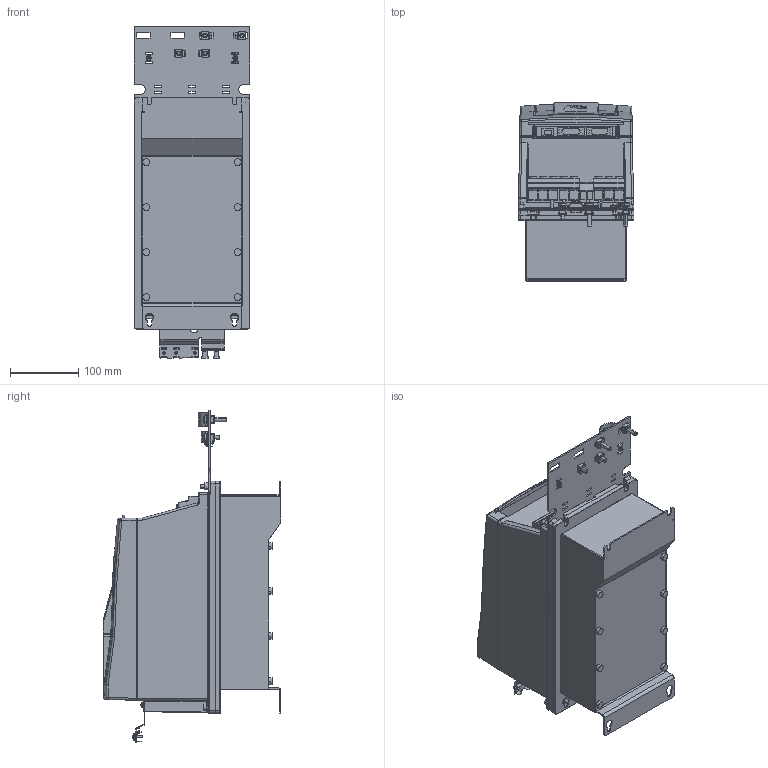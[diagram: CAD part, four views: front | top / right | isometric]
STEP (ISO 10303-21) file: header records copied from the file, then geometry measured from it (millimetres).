
FILE_DESCRIPTION (( 'STEP AP214' ), '1' );
FILE_NAME ('10036505_000.STEP', '2021-01-18T09:09:00', ( '' ), ( '' ), 'SwSTEP 2.0', 'SolidWorks 2019', '' );
FILE_SCHEMA (( 'AUTOMOTIVE_DESIGN' ));
Length unit declared in the file: millimetre
Products named in the file (14): 10060393_000; 10059761_000; 10063222_000; 10001531_000; 10040482_000_Kundenmodell; 10047114_000_Kundenmodell; 10061030_000_Kundenmodell; 10059765_000; 10059764_000_Blindabdeckung (Kundenmodell); 10036504_000_Leistungsteil TR0 (Kundenmodell); 10044643_000_Kundenmodell; 10036505_000; 10060392_000; 10063309_000
Assembly tree (14 placements, depth 4):
  10036505_000
    10036504_000_Leistungsteil TR0 (Kundenmodell)
      10060392_000
    10040482_000_Kundenmodell
      10060393_000
    10044643_000_Kundenmodell
      10059764_000_Blindabdeckung (Kundenmodell)
        10059765_000
      10059761_000
    10061030_000_Kundenmodell
      10063309_000
    10047114_000_Kundenmodell
      10063222_000
    10001531_000  x2
Bounding box: 170 x 260.9 x 486.8 mm (x, y, z)
Volume: 10648030.6 mm3; surface area: 698318.3 mm2
Topology: 20 solids, 28 shells, 3379 faces, 8825 edges, 5570 vertices
Faces by surface type: plane 1607, cylinder 1106, bspline 355, torus 124, cone 121, sphere 66
Entity records: 116133 total; most frequent: CARTESIAN_POINT 31827, ORIENTED_EDGE 17342, DIRECTION 15912, EDGE_CURVE 8671, VERTEX_POINT 5512, AXIS2_PLACEMENT_3D 5499, LINE 4914, VECTOR 4914
